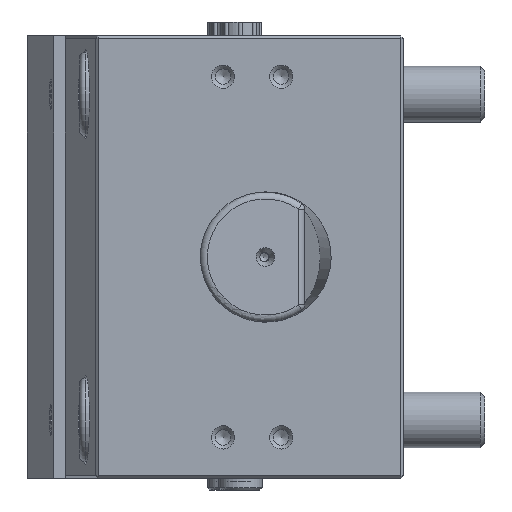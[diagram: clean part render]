
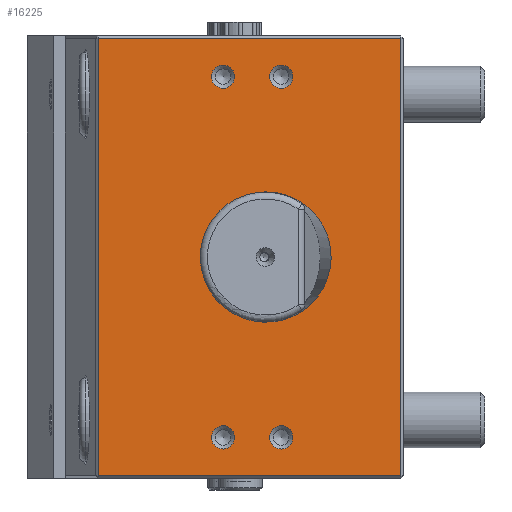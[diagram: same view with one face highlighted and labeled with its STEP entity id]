
A CAD part, left-side view. The second image highlights one B-rep face of the part: STEP entity #16225.
In plain terms, the highlighted planar face has unit normal (-1, 0, 0) by its records, which use the part's own axes.
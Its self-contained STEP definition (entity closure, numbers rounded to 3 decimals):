
#232=ELLIPSE($,#17588,28.107,28.);
#606=LINE($,#24078,#1691);
#607=LINE($,#24080,#1692);
#608=LINE($,#24082,#1693);
#609=LINE($,#24083,#1694);
#1691=VECTOR($,#19892,188.);
#1692=VECTOR($,#19893,130.088);
#1693=VECTOR($,#19894,188.);
#1694=VECTOR($,#19895,130.088);
#2910=PLANE($,#17609);
#3477=FACE_BOUND($,#5645,.T.);
#3478=FACE_BOUND($,#5646,.T.);
#3479=FACE_BOUND($,#5647,.T.);
#3480=FACE_BOUND($,#5648,.T.);
#3481=FACE_BOUND($,#5649,.T.);
#3482=FACE_BOUND($,#5650,.T.);
#5645=EDGE_LOOP($,(#11812));
#5646=EDGE_LOOP($,(#11813));
#5647=EDGE_LOOP($,(#11814));
#5648=EDGE_LOOP($,(#11815));
#5649=EDGE_LOOP($,(#11816));
#5650=EDGE_LOOP($,(#11817,#11818,#11819,#11820));
#6800=CIRCLE($,#17525,5.);
#6803=CIRCLE($,#17531,5.);
#6806=CIRCLE($,#17537,5.);
#6809=CIRCLE($,#17543,5.);
#7434=VERTEX_POINT($,#23786);
#7437=VERTEX_POINT($,#23795);
#7440=VERTEX_POINT($,#23804);
#7443=VERTEX_POINT($,#23813);
#7471=VERTEX_POINT($,#23998);
#7501=VERTEX_POINT($,#24076);
#7502=VERTEX_POINT($,#24077);
#7503=VERTEX_POINT($,#24079);
#7504=VERTEX_POINT($,#24081);
#9069=EDGE_CURVE($,#7434,#7434,#6800,.T.);
#9072=EDGE_CURVE($,#7437,#7437,#6803,.T.);
#9075=EDGE_CURVE($,#7440,#7440,#6806,.T.);
#9078=EDGE_CURVE($,#7443,#7443,#6809,.T.);
#9110=EDGE_CURVE($,#7471,#7471,#232,.T.);
#9140=EDGE_CURVE($,#7501,#7502,#606,.T.);
#9141=EDGE_CURVE($,#7503,#7501,#607,.T.);
#9142=EDGE_CURVE($,#7504,#7503,#608,.T.);
#9143=EDGE_CURVE($,#7502,#7504,#609,.T.);
#11812=ORIENTED_EDGE($,*,*,#9110,.T.);
#11813=ORIENTED_EDGE($,*,*,#9069,.T.);
#11814=ORIENTED_EDGE($,*,*,#9072,.T.);
#11815=ORIENTED_EDGE($,*,*,#9075,.T.);
#11816=ORIENTED_EDGE($,*,*,#9078,.T.);
#11817=ORIENTED_EDGE($,*,*,#9140,.F.);
#11818=ORIENTED_EDGE($,*,*,#9141,.F.);
#11819=ORIENTED_EDGE($,*,*,#9142,.F.);
#11820=ORIENTED_EDGE($,*,*,#9143,.F.);
#16225=ADVANCED_FACE($,(#3477,#3478,#3479,#3480,#3481,#3482),#2910,.T.);
#17525=AXIS2_PLACEMENT_3D($,#23787,#19700,#19701);
#17531=AXIS2_PLACEMENT_3D($,#23796,#19712,#19713);
#17537=AXIS2_PLACEMENT_3D($,#23805,#19724,#19725);
#17543=AXIS2_PLACEMENT_3D($,#23814,#19736,#19737);
#17588=AXIS2_PLACEMENT_3D($,#23999,#19834,#19835);
#17609=AXIS2_PLACEMENT_3D($,#24075,#19890,#19891);
#19700=DIRECTION('center_axis',(1.,0.,0.));
#19701=DIRECTION('ref_axis',(0.,0.,1.));
#19712=DIRECTION('center_axis',(1.,0.,0.));
#19713=DIRECTION('ref_axis',(0.,0.,1.));
#19724=DIRECTION('center_axis',(1.,0.,0.));
#19725=DIRECTION('ref_axis',(0.,0.,1.));
#19736=DIRECTION('center_axis',(1.,0.,0.));
#19737=DIRECTION('ref_axis',(0.,0.,1.));
#19834=DIRECTION('center_axis',(1.,0.,0.));
#19835=DIRECTION('ref_axis',(0.,-1.,0.));
#19890=DIRECTION('center_axis',(-1.,0.,0.));
#19891=DIRECTION('ref_axis',(0.,0.,1.));
#19892=DIRECTION($,(0.,0.,1.));
#19893=DIRECTION($,(0.,1.,0.));
#19894=DIRECTION($,(0.,0.,-1.));
#19895=DIRECTION($,(0.,-1.,0.));
#23786=CARTESIAN_POINT('',(0.,18.35,-72.5));
#23787=CARTESIAN_POINT('Origin',(0.,18.35,-77.5));
#23795=CARTESIAN_POINT('',(0.,18.35,82.5));
#23796=CARTESIAN_POINT('Origin',(0.,18.35,77.5));
#23804=CARTESIAN_POINT('',(0.,-6.65,-72.5));
#23805=CARTESIAN_POINT('Origin',(0.,-6.65,
-77.5));
#23813=CARTESIAN_POINT('',(0.,-6.65,82.5));
#23814=CARTESIAN_POINT('Origin',(0.,-6.65,
77.5));
#23998=CARTESIAN_POINT('',(0.,28.107,0.));
#23999=CARTESIAN_POINT('Origin',(0.,0.,0.));
#24075=CARTESIAN_POINT('Origin',(0.,-59.1,0.));
#24076=CARTESIAN_POINT('',(0.,71.988,-94.));
#24077=CARTESIAN_POINT('',(0.,71.988,94.));
#24078=CARTESIAN_POINT($,(0.,71.988,0.));
#24079=CARTESIAN_POINT('',(0.,-58.1,-94.));
#24080=CARTESIAN_POINT($,(0.,-24.597,-94.));
#24081=CARTESIAN_POINT('',(0.,-58.1,94.));
#24082=CARTESIAN_POINT($,(0.,-58.1,0.));
#24083=CARTESIAN_POINT($,(0.,-24.597,94.));
